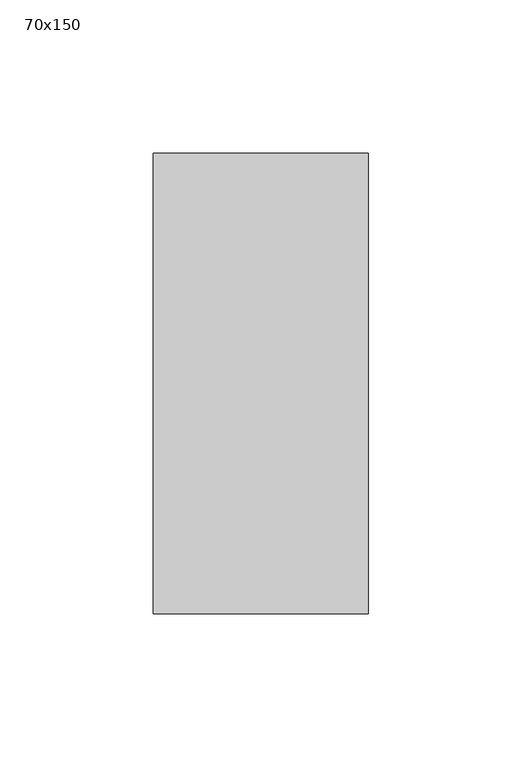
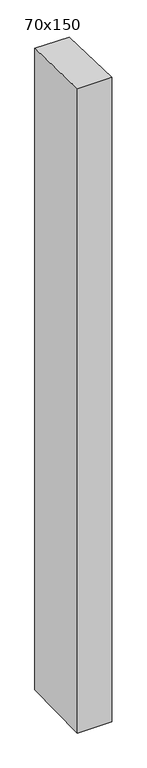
"""IFC4 building model written with IfcOpenShell, lengths in millimetres: member geometry, 長方形のマリオン : 70x150."""

from ifc_helpers import new_model, si_unit, frame, origin, place, context, project, spatial, polyline, outline, extrude, source, transform, mapped, element, save


def member_70x150_b46a4292(model_context):
    return source(origin(), model_context, "Body", "SweptSolid", [
        extrude(outline(polyline([(-75.0, 2.2718492), (75.0, -2.2718492), (75.0, -1384.5853628), (-75.0, -1386.5413288), (-75.0, 2.2718492)])), frame((-35.0, 0.0, 0.0), z_axis=(1.0, 0.0, 0.0), x_axis=(0.0, 1.0, 0.0)), (0.0, 0.0, 1.0), 70.0),
    ])


if __name__ == "__main__":
    model = new_model("IFC4")
    model_context = context("Model", 3, world=origin())
    ifc_project = project(units=[si_unit("LENGTHUNIT", "METRE", prefix="MILLI")], contexts=[model_context])
    site = spatial("IfcSite", under=ifc_project)
    building = spatial("IfcBuilding", under=site)
    placement = place(None, origin())
    member_70x150_shape = member_70x150_b46a4292(model_context)
    element("IfcMember", 1, ObjectType="長方形のマリオン : 70x150", at=placement, inside=building, context=model_context, shape_type="MappedRepresentation", body=[
        mapped(member_70x150_shape, transform((0.0, 0.0, 0.0), x_axis=(1.0, 0.0, 0.0), y_axis=(0.0, 1.0, 0.0), z_axis=(0.0, 0.0, 1.0))),
    ])
    save(model, "model.ifc")
